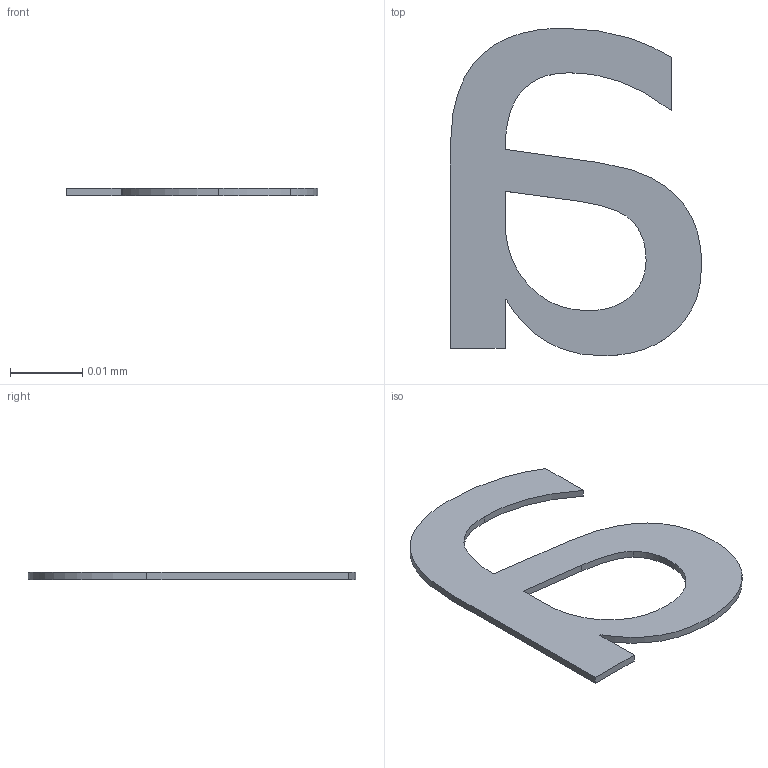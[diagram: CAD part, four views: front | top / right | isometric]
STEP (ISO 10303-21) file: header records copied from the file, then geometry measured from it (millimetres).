
FILE_DESCRIPTION(/* description */ ('STEP AP242 Edition 2','CAx-IF Rec.Pracs.---Representation and Presentation of Product Manufacturing Information (PMI)---4.0---2014-10-13','CAx-IF Rec.Pracs.---3D Tessellated Geometry---0.4---2014-09-14','2;1','CAx-IF Rec.Pracs.---User Defined Attributes---1.5---2016-08-15'),/* implementation_level */ '2;1');
FILE_NAME(/* name */ 'Assembly 1 - SOT-23-6_L2.9-W1.6-P0.95-LS2.8-BL~SOT-23-6_L2.9-W1.6-H1.5-LS2.8-P0.95~nxQB',/* time_stamp */ '2026-04-02T09:55:25Z',/* author */ (''),/* organization */ (''),/* preprocessor_version */ 'ST-DEVELOPER v20',/* originating_system */ 'ONSHAPE BY PTC INC, 1.212',/* authorisation */ ' ');
FILE_SCHEMA (('AP242_MANAGED_MODEL_BASED_3D_ENGINEERING_MIM_LF { 1 0 10303 442 3 1 4 }'));
Length unit declared in the file: metre
Products named in the file (1): SOT-23-6_L2.9-W1.6-P0.95-LS2.8-BL~SOT-23-6_L2.9-W1.6-H1.5-LS2.8-P0.95
~nxQB
Bounding box: 0.03 x 0.05 x 0 mm (x, y, z)
Volume: 0 mm3; surface area: 0 mm2
Topology: 1 solids, 1 shells, 24 faces, 66 edges, 44 vertices
Faces by surface type: bspline 14, plane 10
Entity records: 1029 total; most frequent: CARTESIAN_POINT 317, ORIENTED_EDGE 132, EDGE_CURVE 66, DIRECTION 60, VERTEX_POINT 44, LINE 38, VECTOR 38, B_SPLINE_CURVE_WITH_KNOTS 28
